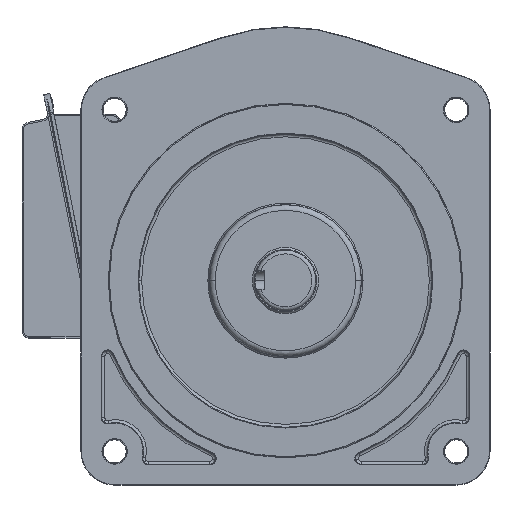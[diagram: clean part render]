
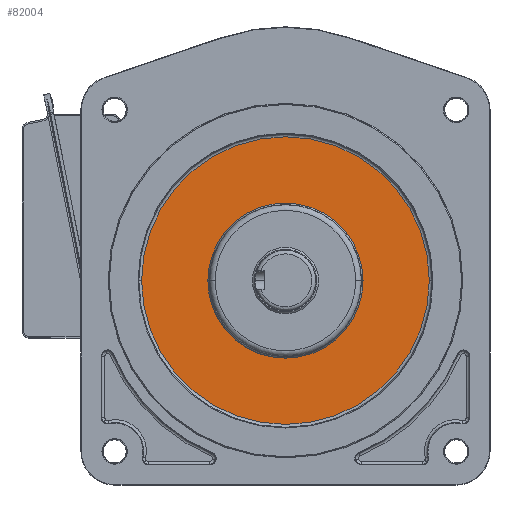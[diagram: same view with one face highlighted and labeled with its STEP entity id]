
A CAD part, top view. The second image highlights one B-rep face of the part: STEP entity #82004.
In plain terms, the highlighted planar face has unit normal (0, 0, 1).
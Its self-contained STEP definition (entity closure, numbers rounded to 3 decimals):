
#80823=CARTESIAN_POINT('',(75.929,-30.246,306.5));
#80824=VERTEX_POINT('',#80823);
#80825=CARTESIAN_POINT('',(-75.929,-30.246,306.5));
#80826=VERTEX_POINT('',#80825);
#80827=CARTESIAN_POINT('',(0.,-30.246,306.5));
#80828=DIRECTION('',(0.,0.,1.));
#80829=DIRECTION('',(-1.,0.,0.));
#80830=AXIS2_PLACEMENT_3D('',#80827,#80828,#80829);
#80831=CIRCLE('',#80830,75.929);
#80832=EDGE_CURVE('',#80824,#80826,#80831,.T.);
#80857=CARTESIAN_POINT('',(0.,-30.246,306.5));
#80858=DIRECTION('',(0.,0.,1.));
#80859=DIRECTION('',(-1.,0.,0.));
#80860=AXIS2_PLACEMENT_3D('',#80857,#80858,#80859);
#80861=CIRCLE('',#80860,75.929);
#80862=EDGE_CURVE('',#80826,#80824,#80861,.T.);
#81946=CARTESIAN_POINT('',(25.464,-30.246,306.5));
#81947=VERTEX_POINT('',#81946);
#81954=CARTESIAN_POINT('',(-25.464,-30.246,306.5));
#81955=VERTEX_POINT('',#81954);
#81956=CARTESIAN_POINT('',(-0.,-30.246,306.5));
#81957=DIRECTION('',(0.,0.,1.));
#81958=DIRECTION('',(1.,0.,-0.));
#81959=AXIS2_PLACEMENT_3D('',#81956,#81957,#81958);
#81960=CIRCLE('',#81959,25.464);
#81961=EDGE_CURVE('',#81947,#81955,#81960,.T.);
#81979=CARTESIAN_POINT('',(-0.,-30.246,306.5));
#81980=DIRECTION('',(0.,0.,1.));
#81981=DIRECTION('',(1.,0.,-0.));
#81982=AXIS2_PLACEMENT_3D('',#81979,#81980,#81981);
#81983=CIRCLE('',#81982,25.464);
#81984=EDGE_CURVE('',#81955,#81947,#81983,.T.);
#81991=CARTESIAN_POINT('',(-90.,-120.246,306.5));
#81992=DIRECTION('',(0.,0.,-1.));
#81993=DIRECTION('',(1.,0.,0.));
#81994=AXIS2_PLACEMENT_3D('',#81991,#81992,#81993);
#81995=PLANE('',#81994);
#81996=ORIENTED_EDGE('',*,*,#80832,.T.);
#81997=ORIENTED_EDGE('',*,*,#80862,.T.);
#81998=EDGE_LOOP('',(#81996,#81997));
#81999=FACE_BOUND('',#81998,.T.);
#82000=ORIENTED_EDGE('',*,*,#81984,.F.);
#82001=ORIENTED_EDGE('',*,*,#81961,.F.);
#82002=EDGE_LOOP('',(#82000,#82001));
#82003=FACE_BOUND('',#82002,.T.);
#82004=ADVANCED_FACE('',(#81999,#82003),#81995,.F.);
